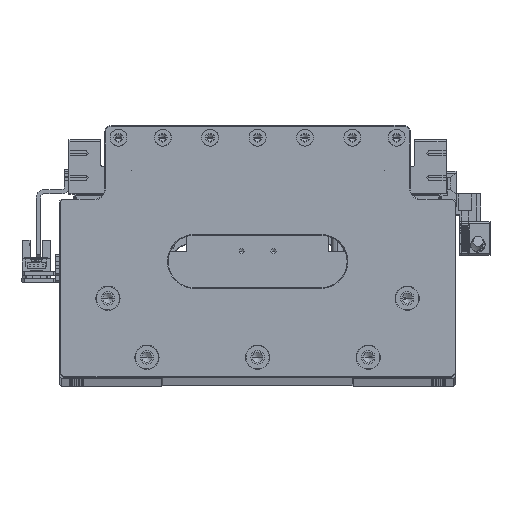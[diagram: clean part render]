
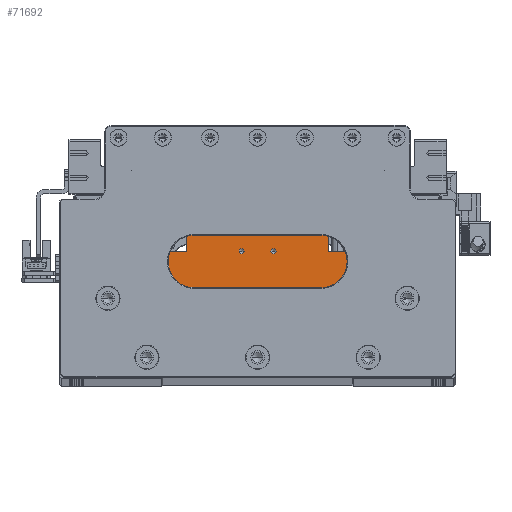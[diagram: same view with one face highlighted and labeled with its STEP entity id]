
A CAD part, top view. The second image highlights one B-rep face of the part: STEP entity #71692.
In plain terms, the highlighted planar face has unit normal (0, 0, 1).
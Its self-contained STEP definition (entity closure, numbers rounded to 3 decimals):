
#1523 = PLANE ( 'NONE',  #71738 ) ;
#2923 = EDGE_CURVE ( 'NONE', #88766, #35197, #85267, .T. ) ;
#3528 = VERTEX_POINT ( 'NONE', #59162 ) ;
#6942 = VERTEX_POINT ( 'NONE', #69162 ) ;
#8229 = EDGE_CURVE ( 'NONE', #103263, #75113, #35857, .T. ) ;
#8255 = EDGE_CURVE ( 'NONE', #6942, #16828, #30115, .T. ) ;
#8813 = VECTOR ( 'NONE', #97665, 1000. ) ;
#9054 = DIRECTION ( 'NONE',  ( 0., 0., -1. ) ) ;
#9071 = LINE ( 'NONE', #49739, #36194 ) ;
#9441 = ORIENTED_EDGE ( 'NONE', *, *, #76609, .T. ) ;
#10731 = CARTESIAN_POINT ( 'NONE',  ( 0., 0., 90. ) ) ;
#10938 = FACE_BOUND ( 'NONE', #48811, .T. ) ;
#11256 = CARTESIAN_POINT ( 'NONE',  ( -7.5, -8., 90. ) ) ;
#11464 = CARTESIAN_POINT ( 'NONE',  ( 0., -8., 90. ) ) ;
#11642 = LINE ( 'NONE', #43168, #8813 ) ;
#11669 = VECTOR ( 'NONE', #33593, 1000. ) ;
#12704 = EDGE_CURVE ( 'NONE', #75113, #24727, #11642, .T. ) ;
#13614 = LINE ( 'NONE', #54871, #35055 ) ;
#13688 = VERTEX_POINT ( 'NONE', #82161 ) ;
#14915 = LINE ( 'NONE', #70103, #36330 ) ;
#16828 = VERTEX_POINT ( 'NONE', #20599 ) ;
#19922 = DIRECTION ( 'NONE',  ( 0., 0., 1. ) ) ;
#20457 = DIRECTION ( 'NONE',  ( 1., 0., 0. ) ) ;
#20599 = CARTESIAN_POINT ( 'NONE',  ( -6.25, -8., 90. ) ) ;
#23084 = ORIENTED_EDGE ( 'NONE', *, *, #30026, .T. ) ;
#24714 = DIRECTION ( 'NONE',  ( 0., 1., 0. ) ) ;
#24727 = VERTEX_POINT ( 'NONE', #94685 ) ;
#25412 = CIRCLE ( 'NONE', #39391, 1.25 ) ;
#30026 = EDGE_CURVE ( 'NONE', #84041, #91459, #116237, .T. ) ;
#30115 = CIRCLE ( 'NONE', #31480, 1.25 ) ;
#30266 = DIRECTION ( 'NONE',  ( 0., 0., -1. ) ) ;
#31480 = AXIS2_PLACEMENT_3D ( 'NONE', #63630, #9054, #72769 ) ;
#32234 = AXIS2_PLACEMENT_3D ( 'NONE', #11256, #75031, #20457 ) ;
#32353 = ORIENTED_EDGE ( 'NONE', *, *, #12704, .T. ) ;
#32809 = CARTESIAN_POINT ( 'NONE',  ( 7.5, -8., 90. ) ) ;
#33593 = DIRECTION ( 'NONE',  ( 1., 0., 0. ) ) ;
#35055 = VECTOR ( 'NONE', #45670, 1000. ) ;
#35197 = VERTEX_POINT ( 'NONE', #37300 ) ;
#35857 = LINE ( 'NONE', #53729, #84231 ) ;
#36194 = VECTOR ( 'NONE', #104178, 1000. ) ;
#36203 = ORIENTED_EDGE ( 'NONE', *, *, #36917, .T. ) ;
#36330 = VECTOR ( 'NONE', #24714, 1000. ) ;
#36917 = EDGE_CURVE ( 'NONE', #16828, #6942, #103280, .T. ) ;
#37300 = CARTESIAN_POINT ( 'NONE',  ( -33.5, -8., 90. ) ) ;
#38843 = LINE ( 'NONE', #42783, #11669 ) ;
#39391 = AXIS2_PLACEMENT_3D ( 'NONE', #32809, #96476, #42029 ) ;
#42029 = DIRECTION ( 'NONE',  ( 1., 0., 0. ) ) ;
#42783 = CARTESIAN_POINT ( 'NONE',  ( -45., -40., 90. ) ) ;
#43168 = CARTESIAN_POINT ( 'NONE',  ( 33.5, 0., 90. ) ) ;
#45670 = DIRECTION ( 'NONE',  ( -1., 0., 0. ) ) ;
#46005 = AXIS2_PLACEMENT_3D ( 'NONE', #84792, #30266, #93949 ) ;
#46414 = ORIENTED_EDGE ( 'NONE', *, *, #8255, .T. ) ;
#48502 = EDGE_CURVE ( 'NONE', #24727, #88766, #13614, .T. ) ;
#48811 = EDGE_LOOP ( 'NONE', ( #23084, #9441 ) ) ;
#49739 = CARTESIAN_POINT ( 'NONE',  ( -45., 0., 90. ) ) ;
#53325 = EDGE_LOOP ( 'NONE', ( #36203, #46414 ) ) ;
#53729 = CARTESIAN_POINT ( 'NONE',  ( 0., -8., 90. ) ) ;
#54415 = EDGE_CURVE ( 'NONE', #13688, #3528, #9071, .T. ) ;
#54610 = LINE ( 'NONE', #11464, #75944 ) ;
#54871 = CARTESIAN_POINT ( 'NONE',  ( 0., -0.2, 90. ) ) ;
#55603 = EDGE_CURVE ( 'NONE', #3528, #76331, #38843, .T. ) ;
#56593 = FACE_BOUND ( 'NONE', #53325, .T. ) ;
#57167 = CARTESIAN_POINT ( 'NONE',  ( -33.5, -0.2, 90. ) ) ;
#58242 = VECTOR ( 'NONE', #58899, 1000. ) ;
#58373 = CARTESIAN_POINT ( 'NONE',  ( 44.8, -8., 90. ) ) ;
#58899 = DIRECTION ( 'NONE',  ( 0., -1., 0. ) ) ;
#59162 = CARTESIAN_POINT ( 'NONE',  ( -45., -40., 90. ) ) ;
#63141 = EDGE_LOOP ( 'NONE', ( #97806, #70436, #107543, #68791, #80185, #32353, #78227, #92236 ) ) ;
#63630 = CARTESIAN_POINT ( 'NONE',  ( -7.5, -8., 90. ) ) ;
#68791 = ORIENTED_EDGE ( 'NONE', *, *, #97740, .T. ) ;
#69162 = CARTESIAN_POINT ( 'NONE',  ( -8.75, -8., 90. ) ) ;
#69357 = CARTESIAN_POINT ( 'NONE',  ( 6.25, -8., 90. ) ) ;
#70103 = CARTESIAN_POINT ( 'NONE',  ( 44.8, 0., 90. ) ) ;
#70436 = ORIENTED_EDGE ( 'NONE', *, *, #54415, .T. ) ;
#71692 = ADVANCED_FACE ( 'NONE', ( #107829, #10938, #56593 ), #1523, .T. ) ;
#71738 = AXIS2_PLACEMENT_3D ( 'NONE', #10731, #19922, #83578 ) ;
#72769 = DIRECTION ( 'NONE',  ( 1., 0., 0. ) ) ;
#73485 = CARTESIAN_POINT ( 'NONE',  ( 33.5, -8., 90. ) ) ;
#75031 = DIRECTION ( 'NONE',  ( 0., 0., -1. ) ) ;
#75113 = VERTEX_POINT ( 'NONE', #73485 ) ;
#75944 = VECTOR ( 'NONE', #103055, 1000. ) ;
#76331 = VERTEX_POINT ( 'NONE', #102116 ) ;
#76609 = EDGE_CURVE ( 'NONE', #91459, #84041, #25412, .T. ) ;
#78227 = ORIENTED_EDGE ( 'NONE', *, *, #48502, .T. ) ;
#80185 = ORIENTED_EDGE ( 'NONE', *, *, #8229, .T. ) ;
#82161 = CARTESIAN_POINT ( 'NONE',  ( -45., -8., 90. ) ) ;
#83578 = DIRECTION ( 'NONE',  ( 1., 0., 0. ) ) ;
#84041 = VERTEX_POINT ( 'NONE', #108865 ) ;
#84231 = VECTOR ( 'NONE', #117386, 1000. ) ;
#84792 = CARTESIAN_POINT ( 'NONE',  ( 7.5, -8., 90. ) ) ;
#85267 = LINE ( 'NONE', #113415, #58242 ) ;
#88122 = EDGE_CURVE ( 'NONE', #35197, #13688, #54610, .T. ) ;
#88766 = VERTEX_POINT ( 'NONE', #57167 ) ;
#91459 = VERTEX_POINT ( 'NONE', #69357 ) ;
#92236 = ORIENTED_EDGE ( 'NONE', *, *, #2923, .T. ) ;
#93949 = DIRECTION ( 'NONE',  ( 1., 0., 0. ) ) ;
#94685 = CARTESIAN_POINT ( 'NONE',  ( 33.5, -0.2, 90. ) ) ;
#96476 = DIRECTION ( 'NONE',  ( 0., 0., -1. ) ) ;
#97665 = DIRECTION ( 'NONE',  ( 0., 1., 0. ) ) ;
#97740 = EDGE_CURVE ( 'NONE', #76331, #103263, #14915, .T. ) ;
#97806 = ORIENTED_EDGE ( 'NONE', *, *, #88122, .T. ) ;
#102116 = CARTESIAN_POINT ( 'NONE',  ( 44.8, -40., 90. ) ) ;
#103055 = DIRECTION ( 'NONE',  ( -1., 0., 0. ) ) ;
#103263 = VERTEX_POINT ( 'NONE', #58373 ) ;
#103280 = CIRCLE ( 'NONE', #32234, 1.25 ) ;
#104178 = DIRECTION ( 'NONE',  ( 0., -1., 0. ) ) ;
#107543 = ORIENTED_EDGE ( 'NONE', *, *, #55603, .T. ) ;
#107829 = FACE_OUTER_BOUND ( 'NONE', #63141, .T. ) ;
#108865 = CARTESIAN_POINT ( 'NONE',  ( 8.75, -8., 90. ) ) ;
#113415 = CARTESIAN_POINT ( 'NONE',  ( -33.5, 0., 90. ) ) ;
#116237 = CIRCLE ( 'NONE', #46005, 1.25 ) ;
#117386 = DIRECTION ( 'NONE',  ( -1., 0., 0. ) ) ;
